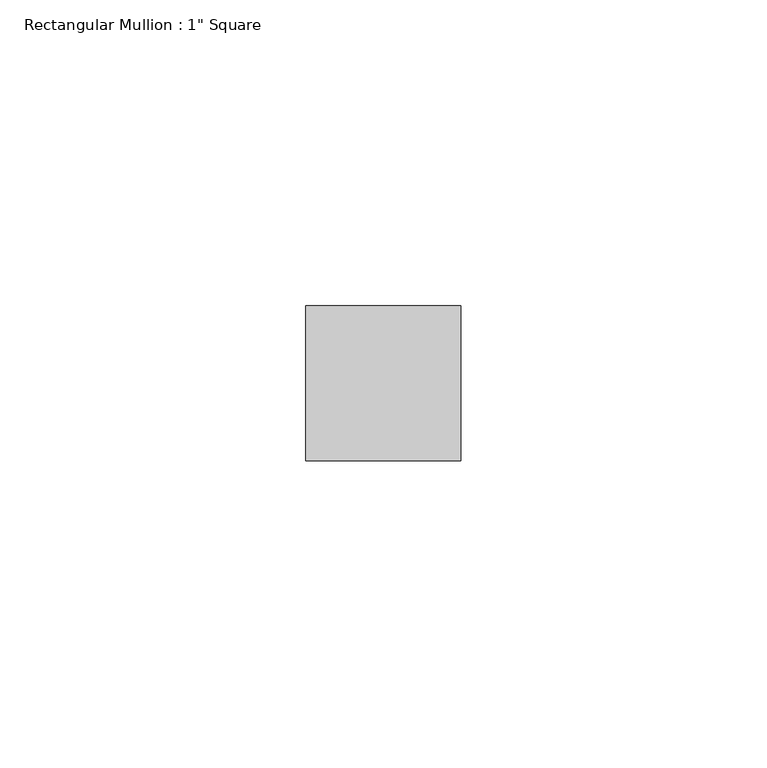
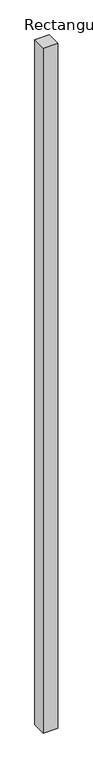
"""IFC4 building model written with IfcOpenShell, lengths in millimetres: member geometry."""

import ifcopenshell
import ifcopenshell.guid

model = None  # the IFC model being written
_history = None  # IfcOwnerHistory: only IFC2X3 demands one
_inside = {}  # id of a spatial element -> (the spatial element, [elements in it])
_under = {}  # id of a project, library or spatial element -> (it, [spatial elements below it])
_declared = {}  # id of a project -> (the project, [libraries it declares])
_typed = {}  # id of a type object -> (the type object, [elements of that type])
_made_of = {}  # id of a material, layer set ... -> (it, [elements and type objects made of it])


def new_model(schema):
    """Start an empty IFC model of exactly this schema.

    Asked for "IFC4X3", IfcOpenShell would pick the latest addendum, in which some entities
    have other attributes; the version numbers below select the first issue.
    IFC2X3 requires an IfcOwnerHistory on every rooted entity: one is made here for all.
    """
    global model, _history
    if schema == "IFC4X3":
        model = ifcopenshell.file(schema_version=(4, 3, 0, 0))
    else:
        model = ifcopenshell.file(schema=schema)
    _inside.clear()
    _under.clear()
    _declared.clear()
    _typed.clear()
    _made_of.clear()
    _history = None
    if model.schema == "IFC2X3":
        org = make("IfcOrganization", Name="unknown")
        user = make(
            "IfcPersonAndOrganization",
            ThePerson=make("IfcPerson", FamilyName="unknown"),
            TheOrganization=org,
        )
        app = make(
            "IfcApplication",
            ApplicationDeveloper=org,
            Version="unknown",
            ApplicationFullName="unknown",
            ApplicationIdentifier="unknown",
        )
        _history = make(
            "IfcOwnerHistory",
            OwningUser=user,
            OwningApplication=app,
            ChangeAction="ADDED",
            CreationDate=0,
        )
    return model


def make(cls, **values):
    """One entity of the class cls with the attributes given. An attribute that is None is left unset."""
    return model.create_entity(
        cls, **{name: value for name, value in values.items() if value is not None}
    )


def rooted(cls, **values):
    """An entity with a GlobalId (a new one), such as an element, a storey or a relation."""
    return make(cls, GlobalId=ifcopenshell.guid.new(), OwnerHistory=_history, **values)


def si_unit(unit_type, name, prefix=None):
    """IfcSIUnit, for example si_unit("LENGTHUNIT", "METRE", prefix="MILLI")."""
    return make("IfcSIUnit", UnitType=unit_type, Prefix=prefix, Name=name)


def assignment(units):
    """IfcUnitAssignment: the units of a project."""
    return None if units is None else make("IfcUnitAssignment", Units=units)


def point(xyz):
    """IfcCartesianPoint."""
    return None if xyz is None else make("IfcCartesianPoint", Coordinates=xyz)


def direction(xyz):
    """IfcDirection."""
    return None if xyz is None else make("IfcDirection", DirectionRatios=xyz)


def frame(location, z_axis=None, x_axis=None):
    """IfcAxis2Placement3D, a coordinate frame: its origin and axes. An axis left out is left unset."""
    return make(
        "IfcAxis2Placement3D",
        Location=point(location),
        Axis=direction(z_axis),
        RefDirection=direction(x_axis),
    )


def origin():
    """The frame at (0, 0, 0) with its axes left unset."""
    return frame((0.0, 0.0, 0.0))


def place(relative_to, where):
    """IfcLocalPlacement: puts the frame where relative to a parent placement (None: the world)."""
    return make(
        "IfcLocalPlacement", PlacementRelTo=relative_to, RelativePlacement=where
    )


def context(
    kind, dimensions, precision=None, world=None, true_north=None, identifier=None
):
    """IfcGeometricRepresentationContext, for example the 3D "Model" context."""
    return make(
        "IfcGeometricRepresentationContext",
        ContextIdentifier=identifier,
        ContextType=kind,
        CoordinateSpaceDimension=dimensions,
        Precision=precision,
        WorldCoordinateSystem=world,
        TrueNorth=true_north,
    )


def project(units=None, contexts=None):
    """IfcProject with its units and contexts."""
    return rooted(
        "IfcProject",
        Name="project",
        RepresentationContexts=contexts,
        UnitsInContext=assignment(units),
    )


def spatial(cls, under=None, at=None, **own):
    """A site, building, storey or space (cls), placed at a placement, below another one or the project."""
    s = rooted(cls, ObjectPlacement=at, **own)
    if under is not None:
        _under.setdefault(under.id(), (under, []))[1].append(s)
    return s


def polyline(points):
    """IfcPolyline through the points."""
    return make("IfcPolyline", Points=[point(p) for p in points])


def outline(outer, holes=None, kind="AREA"):
    """IfcArbitraryClosedProfileDef: a profile drawn as a closed curve; with holes, ...WithVoids."""
    if holes is None:
        return make("IfcArbitraryClosedProfileDef", ProfileType=kind, OuterCurve=outer)
    return make(
        "IfcArbitraryProfileDefWithVoids",
        ProfileType=kind,
        OuterCurve=outer,
        InnerCurves=holes,
    )


def extrude(swept, where, along, depth):
    """IfcExtrudedAreaSolid: the profile swept, set in the frame where, extruded along a direction by depth."""
    return make(
        "IfcExtrudedAreaSolid",
        SweptArea=swept,
        Position=where,
        ExtrudedDirection=direction(along),
        Depth=depth,
    )


def shape(context_of_items, identifier, shape_type, items):
    """IfcShapeRepresentation: the items that make up one representation, for example the "Body"."""
    return make(
        "IfcShapeRepresentation",
        ContextOfItems=context_of_items,
        RepresentationIdentifier=identifier,
        RepresentationType=shape_type,
        Items=items,
    )


def source(mapping_origin, context_of_items, identifier, shape_type, items):
    """IfcRepresentationMap: a shape defined once, which mapped items show again and again."""
    return make(
        "IfcRepresentationMap",
        MappingOrigin=mapping_origin,
        MappedRepresentation=shape(context_of_items, identifier, shape_type, items),
    )


def transform(
    local_origin,
    x_axis=None,
    y_axis=None,
    z_axis=None,
    scale=None,
    scale2=None,
    scale3=None,
    uniform=True,
):
    """IfcCartesianTransformationOperator3D, or its non-uniform kind. x_axis, y_axis, z_axis: its Axis1, 2, 3."""
    if uniform:
        return make(
            "IfcCartesianTransformationOperator3D",
            Axis1=direction(x_axis),
            Axis2=direction(y_axis),
            LocalOrigin=point(local_origin),
            Scale=scale,
            Axis3=direction(z_axis),
        )
    return make(
        "IfcCartesianTransformationOperator3DnonUniform",
        Axis1=direction(x_axis),
        Axis2=direction(y_axis),
        LocalOrigin=point(local_origin),
        Scale=scale,
        Axis3=direction(z_axis),
        Scale2=scale2,
        Scale3=scale3,
    )


def mapped(mapping_source, mapping_target):
    """IfcMappedItem: shows the shape of a source again, moved by a transform."""
    return make(
        "IfcMappedItem", MappingSource=mapping_source, MappingTarget=mapping_target
    )


def made_of(thing, what):
    """Note that an element or type object is made of a material, layer set ...; save() writes the relation."""
    if what is not None:
        _made_of.setdefault(what.id(), (what, []))[1].append(thing)
    return thing


def element(
    cls,
    number,
    at=None,
    inside=None,
    cuts=None,
    type_object=None,
    material=None,
    context=None,
    identifier="Body",
    shape_type=None,
    held_by="IfcProductDefinitionShape",
    body=None,
    shapes=None,
    **own,
):
    """One element of the class cls, such as IfcWall. Its Tag is "e" and its number.

    at: its placement. inside: the storey or other place that contains it. cuts: it is an
    opening in that element (IfcRelVoidsElement). A single representation is given by context,
    identifier, shape_type and body (its items); several are given by shapes. held_by: the class
    of the entity that holds the representations. save() writes the other relations.
    """
    e = rooted(cls, Tag="e%d" % number, ObjectPlacement=at, **own)
    if body is not None:
        shapes = [shape(context, identifier, shape_type, body)]
    if shapes is not None:
        e.Representation = make(held_by, Representations=shapes)
    if inside is not None:
        _inside.setdefault(inside.id(), (inside, []))[1].append(e)
    if cuts is not None:
        rooted(
            "IfcRelVoidsElement", RelatingBuildingElement=cuts, RelatedOpeningElement=e
        )
    if type_object is not None:
        _typed.setdefault(type_object.id(), (type_object, []))[1].append(e)
    return made_of(e, material)


def aggregate(whole, parts):
    """IfcRelAggregates: a whole, such as a stair, and the parts it consists of."""
    return rooted("IfcRelAggregates", RelatingObject=whole, RelatedObjects=parts)


def save(model, path):
    """Write the relations noted so far, then the file.

    IfcRelAggregates (storeys below a building ...), IfcRelContainedInSpatialStructure (elements
    in a storey), IfcRelDefinesByType, IfcRelAssociatesMaterial and IfcRelDeclares: one each for
    every whole, place, type object, material and project.
    """
    for whole, parts in _under.values():
        aggregate(whole, parts)
    for where, things in _inside.values():
        rooted(
            "IfcRelContainedInSpatialStructure",
            RelatedElements=things,
            RelatingStructure=where,
        )
    for kind, things in _typed.values():
        rooted("IfcRelDefinesByType", RelatedObjects=things, RelatingType=kind)
    for what, things in _made_of.values():
        rooted("IfcRelAssociatesMaterial", RelatedObjects=things, RelatingMaterial=what)
    for by, libraries in _declared.values():
        rooted("IfcRelDeclares", RelatingContext=by, RelatedDefinitions=libraries)
    model.write(path)


def member_c3dcfc8e(model_context):
    return source(origin(), model_context, "Body", "SweptSolid", [
        extrude(outline(polyline([(0.0, 12.7), (0.0, -12.7), (-25.4, -12.7), (-25.4, 12.7), (0.0, 12.7)])), frame((0.0, 0.0, -1266.3938272), z_axis=(0.0, 0.0, 1.0), x_axis=(1.0, 0.0, 0.0)), (0.0, 0.0, 1.0), 1266.3938272),
    ])


if __name__ == "__main__":
    model = new_model("IFC4")
    model_context = context("Model", 3, world=origin())
    ifc_project = project(units=[si_unit("LENGTHUNIT", "METRE", prefix="MILLI")], contexts=[model_context])
    site = spatial("IfcSite", under=ifc_project)
    building = spatial("IfcBuilding", under=site)
    placement = place(None, origin())
    member_shape = member_c3dcfc8e(model_context)
    element("IfcMember", 1, ObjectType="Rectangular Mullion : 1\" Square", at=placement, inside=building, context=model_context, shape_type="MappedRepresentation", body=[
        mapped(member_shape, transform((0.0, 0.0, 0.0), x_axis=(1.0, 0.0, 0.0), y_axis=(0.0, 1.0, 0.0), z_axis=(0.0, 0.0, 1.0))),
    ])
    save(model, "model.ifc")
